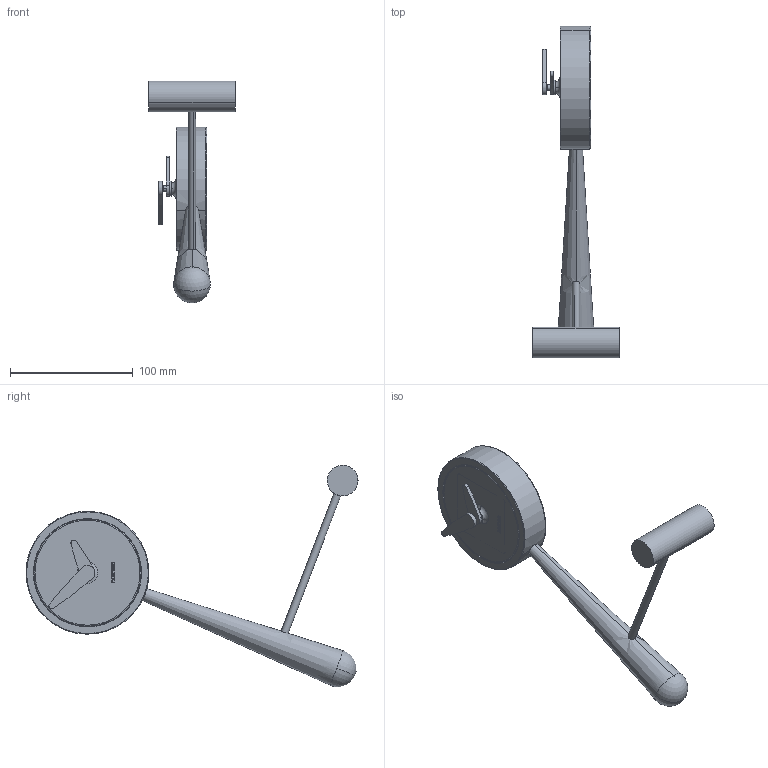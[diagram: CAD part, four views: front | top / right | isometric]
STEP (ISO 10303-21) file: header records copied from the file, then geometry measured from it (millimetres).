
FILE_DESCRIPTION (( 'STEP AP214' ), '1' );
FILE_NAME ('PUNTERO_MINI_ÁTOMO.STEP', '2018-01-10T09:22:19', ( '' ), ( '' ), 'SwSTEP 2.0', 'SolidWorks 2016', '' );
FILE_SCHEMA (( 'AUTOMOTIVE_DESIGN' ));
Length unit declared in the file: millimetre
Products named in the file (14): MECANISMO_ÁTOMO_MP; PUNTERO_MINI_ÁTOMO; ANCLAJE MECANISMO_MP; TORNILLO_BASE; CAJA_TRASERA_PARED_6mm_MP; PATA_VARILLA_METÁLICA; ESPERRAGO_20mm; CAJA_SUPERIOR_METÁLICA_LISA_MP; Cuerpo_nogal_MP_PEQ_VARILLA_METÁLICA; Tornillo_sujeccion_atomo_mini_puntero; AGUJA_HORARIA_MP; AGUJA_MINUTERA_MP; CAJA_DELANTERA_ATOMO_MP; VARILLA_METÁLICA
Assembly tree (13 placements, depth 3):
  PUNTERO_MINI_ÁTOMO
    CAJA_DELANTERA_ATOMO_MP
      ANCLAJE MECANISMO_MP
      MECANISMO_ÁTOMO_MP
      CAJA_SUPERIOR_METÁLICA_LISA_MP
    AGUJA_MINUTERA_MP
    AGUJA_HORARIA_MP
    CAJA_TRASERA_PARED_6mm_MP
    Tornillo_sujeccion_atomo_mini_puntero
    Cuerpo_nogal_MP_PEQ_VARILLA_METÁLICA
    PATA_VARILLA_METÁLICA
    VARILLA_METÁLICA
    TORNILLO_BASE
    ESPERRAGO_20mm
Bounding box: 70 x 269.97 x 180.23 mm (x, y, z)
Volume: 223179.8 mm3; surface area: 90399.4 mm2
Topology: 14 solids, 14 shells, 244 faces, 571 edges, 368 vertices
Faces by surface type: plane 86, cylinder 80, bspline 50, torus 14, cone 12, sphere 2
Entity records: 11445 total; most frequent: CARTESIAN_POINT 4698, ORIENTED_EDGE 1132, DIRECTION 1088, EDGE_CURVE 566, AXIS2_PLACEMENT_3D 415, VERTEX_POINT 365, EDGE_LOOP 279, LINE 258
